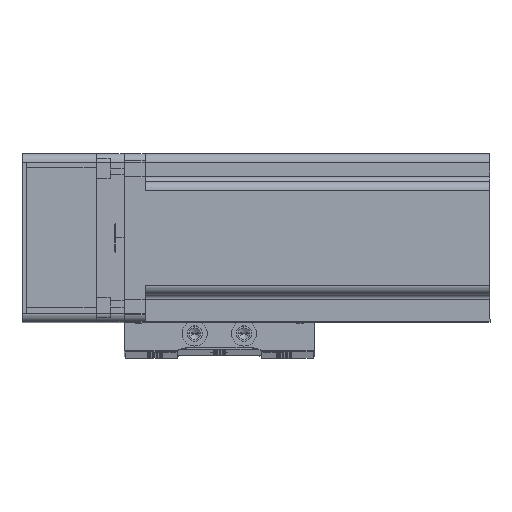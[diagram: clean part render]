
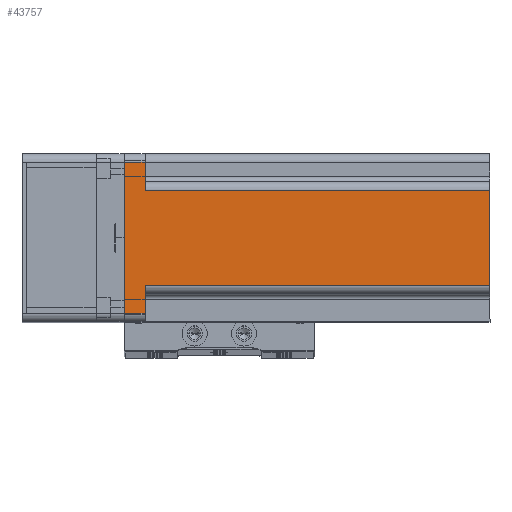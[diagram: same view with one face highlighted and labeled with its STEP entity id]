
A CAD part, top view. The second image highlights one B-rep face of the part: STEP entity #43757.
In plain terms, the highlighted planar face has unit normal (0, 0, 1) as drawn and (0, 1, 0) by its records, which use the part's own axes.
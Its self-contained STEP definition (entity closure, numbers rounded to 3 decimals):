
#654 = ORIENTED_EDGE ( 'NONE', *, *, #6523, .F. ) ;
#778 = CARTESIAN_POINT ( 'NONE',  ( 30., 30., 130.7 ) ) ;
#990 = CARTESIAN_POINT ( 'NONE',  ( 17., 30., 130.7 ) ) ;
#2167 = LINE ( 'NONE', #11499, #47911 ) ;
#2522 = LINE ( 'NONE', #35026, #12951 ) ;
#4047 = DIRECTION ( 'NONE',  ( -1., 0., 0. ) ) ;
#4929 = CARTESIAN_POINT ( 'NONE',  ( -17., 30., 130.7 ) ) ;
#6418 = VERTEX_POINT ( 'NONE', #7163 ) ;
#6523 = EDGE_CURVE ( 'NONE', #6418, #36682, #42562, .T. ) ;
#7144 = EDGE_CURVE ( 'NONE', #12201, #44797, #48754, .T. ) ;
#7163 = CARTESIAN_POINT ( 'NONE',  ( 27., 30., 7.5 ) ) ;
#7755 = CARTESIAN_POINT ( 'NONE',  ( -27., 30., 130.7 ) ) ;
#8670 = VECTOR ( 'NONE', #16859, 1000. ) ;
#8807 = ORIENTED_EDGE ( 'NONE', *, *, #22388, .T. ) ;
#8928 = DIRECTION ( 'NONE',  ( 0., 0., 1. ) ) ;
#11499 = CARTESIAN_POINT ( 'NONE',  ( -20., 30., 7.5 ) ) ;
#11775 = LINE ( 'NONE', #40652, #22171 ) ;
#12201 = VERTEX_POINT ( 'NONE', #12363 ) ;
#12363 = CARTESIAN_POINT ( 'NONE',  ( -27., 30., 0. ) ) ;
#12951 = VECTOR ( 'NONE', #4047, 1000. ) ;
#13149 = FACE_OUTER_BOUND ( 'NONE', #30094, .T. ) ;
#13789 = CARTESIAN_POINT ( 'NONE',  ( 30., 30., 130.7 ) ) ;
#14139 = DIRECTION ( 'NONE',  ( 0., 0., -1. ) ) ;
#16842 = AXIS2_PLACEMENT_3D ( 'NONE', #13789, #44790, #18252 ) ;
#16859 = DIRECTION ( 'NONE',  ( -1., 0., 0. ) ) ;
#17377 = CARTESIAN_POINT ( 'NONE',  ( -27., 30., 7.5 ) ) ;
#18072 = PLANE ( 'NONE',  #16842 ) ;
#18252 = DIRECTION ( 'NONE',  ( 1., 0., 0. ) ) ;
#18332 = ORIENTED_EDGE ( 'NONE', *, *, #18436, .F. ) ;
#18436 = EDGE_CURVE ( 'NONE', #34828, #53345, #56178, .T. ) ;
#19292 = ORIENTED_EDGE ( 'NONE', *, *, #23511, .T. ) ;
#19953 = VERTEX_POINT ( 'NONE', #54987 ) ;
#22171 = VECTOR ( 'NONE', #14139, 1000. ) ;
#22388 = EDGE_CURVE ( 'NONE', #19953, #12201, #2522, .T. ) ;
#23511 = EDGE_CURVE ( 'NONE', #34828, #36682, #57133, .T. ) ;
#24390 = CARTESIAN_POINT ( 'NONE',  ( -17., 30., 7.5 ) ) ;
#25171 = VECTOR ( 'NONE', #34290, 1000. ) ;
#27528 = DIRECTION ( 'NONE',  ( 0., 0., -1. ) ) ;
#30094 = EDGE_LOOP ( 'NONE', ( #32055, #38916, #18332, #19292, #654, #44257, #8807, #43978 ) ) ;
#32043 = VERTEX_POINT ( 'NONE', #24390 ) ;
#32055 = ORIENTED_EDGE ( 'NONE', *, *, #39455, .T. ) ;
#33488 = VECTOR ( 'NONE', #27528, 1000. ) ;
#34290 = DIRECTION ( 'NONE',  ( 0., 0., 1. ) ) ;
#34828 = VERTEX_POINT ( 'NONE', #39833 ) ;
#35026 = CARTESIAN_POINT ( 'NONE',  ( 30., 30., 0. ) ) ;
#35969 = EDGE_CURVE ( 'NONE', #6418, #19953, #11775, .T. ) ;
#36216 = DIRECTION ( 'NONE',  ( -1., 0., 0. ) ) ;
#36682 = VERTEX_POINT ( 'NONE', #56350 ) ;
#38916 = ORIENTED_EDGE ( 'NONE', *, *, #49403, .T. ) ;
#39455 = EDGE_CURVE ( 'NONE', #44797, #32043, #2167, .T. ) ;
#39833 = CARTESIAN_POINT ( 'NONE',  ( 17., 30., 130.7 ) ) ;
#39877 = CARTESIAN_POINT ( 'NONE',  ( -17., 30., 130.7 ) ) ;
#40652 = CARTESIAN_POINT ( 'NONE',  ( 27., 30., 130.7 ) ) ;
#42562 = LINE ( 'NONE', #43337, #8670 ) ;
#43337 = CARTESIAN_POINT ( 'NONE',  ( 20., 30., 7.5 ) ) ;
#43757 = ADVANCED_FACE ( 'NONE', ( #13149 ), #18072, .F. ) ;
#43978 = ORIENTED_EDGE ( 'NONE', *, *, #7144, .T. ) ;
#44257 = ORIENTED_EDGE ( 'NONE', *, *, #35969, .T. ) ;
#44790 = DIRECTION ( 'NONE',  ( 0., -1., 0. ) ) ;
#44797 = VERTEX_POINT ( 'NONE', #17377 ) ;
#45308 = VECTOR ( 'NONE', #8928, 1000. ) ;
#46904 = DIRECTION ( 'NONE',  ( 1., 0., 0. ) ) ;
#47911 = VECTOR ( 'NONE', #46904, 1000. ) ;
#48754 = LINE ( 'NONE', #7755, #25171 ) ;
#49403 = EDGE_CURVE ( 'NONE', #32043, #53345, #55738, .T. ) ;
#53345 = VERTEX_POINT ( 'NONE', #4929 ) ;
#54745 = VECTOR ( 'NONE', #36216, 1000. ) ;
#54987 = CARTESIAN_POINT ( 'NONE',  ( 27., 30., 0. ) ) ;
#55738 = LINE ( 'NONE', #39877, #45308 ) ;
#56178 = LINE ( 'NONE', #778, #54745 ) ;
#56350 = CARTESIAN_POINT ( 'NONE',  ( 17., 30., 7.5 ) ) ;
#57133 = LINE ( 'NONE', #990, #33488 ) ;
